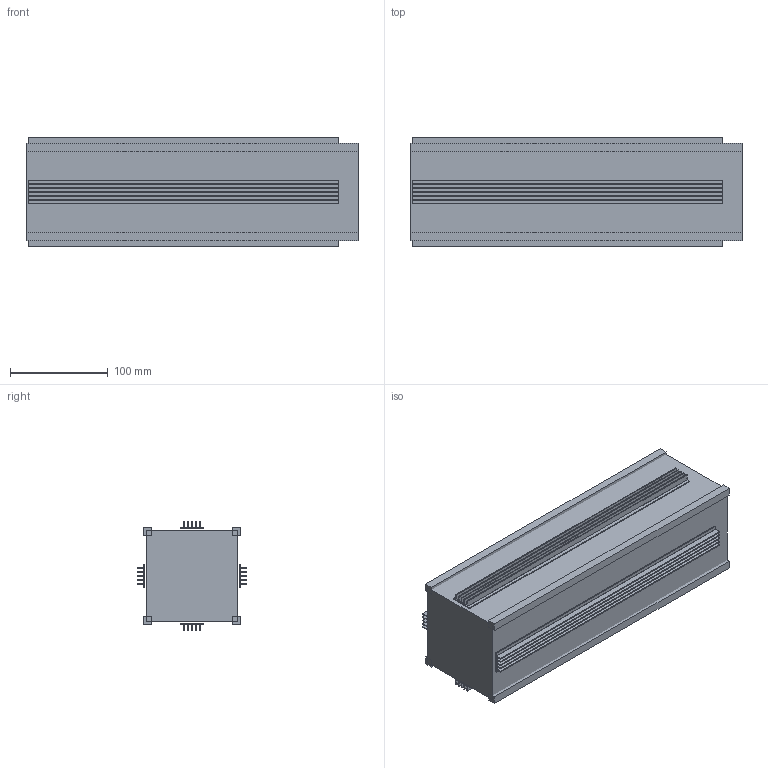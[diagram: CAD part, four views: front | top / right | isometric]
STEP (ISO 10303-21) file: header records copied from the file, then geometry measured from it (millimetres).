
FILE_DESCRIPTION(('Open CASCADE Model'),'2;1');
FILE_NAME('Open CASCADE Shape Model','2026-08-14T13:04:20',('Author'),( 'Open CASCADE'),'Open CASCADE STEP processor 7.7','Open CASCADE 7.7' ,'Unknown');
FILE_SCHEMA(('AUTOMOTIVE_DESIGN { 1 0 10303 214 1 1 1 1 }'));
Length unit declared in the file: millimetre
Products named in the file (90): Open CASCADE STEP translator 7.7 2; Open CASCADE STEP translator 7.7 2.1; Open CASCADE STEP translator 7.7 2.2; Open CASCADE STEP translator 7.7 2.3; Open CASCADE STEP translator 7.7 2.4; Open CASCADE STEP translator 7.7 2.5; Open CASCADE STEP translator 7.7 2.6; Open CASCADE STEP translator 7.7 2.7; Open CASCADE STEP translator 7.7 2.8; Open CASCADE STEP translator 7.7 2.9; Open CASCADE STEP translator 7.7 2.10; Open CASCADE STEP translator 7.7 2.11; Open CASCADE STEP translator 7.7 2.12; Open CASCADE STEP translator 7.7 2.13; Open CASCADE STEP translator 7.7 2.14; Open CASCADE STEP translator 7.7 2.15; Open CASCADE STEP translator 7.7 2.16; Open CASCADE STEP translator 7.7 2.17; Open CASCADE STEP translator 7.7 2.18; Open CASCADE STEP translator 7.7 2.19; Open CASCADE STEP translator 7.7 2.20; Open CASCADE STEP translator 7.7 2.21; Open CASCADE STEP translator 7.7 2.22; Open CASCADE STEP translator 7.7 2.23; Open CASCADE STEP translator 7.7 2.24; Open CASCADE STEP translator 7.7 2.25; Open CASCADE STEP translator 7.7 2.26; Open CASCADE STEP translator 7.7 2.27; Open CASCADE STEP translator 7.7 2.28; Open CASCADE STEP translator 7.7 2.29; Open CASCADE STEP translator 7.7 2.30; Open CASCADE STEP translator 7.7 2.31; Open CASCADE STEP translator 7.7 2.32; Open CASCADE STEP translator 7.7 2.33; Open CASCADE STEP translator 7.7 2.34; Open CASCADE STEP translator 7.7 2.35; Open CASCADE STEP translator 7.7 2.36; Open CASCADE STEP translator 7.7 2.37; Open CASCADE STEP translator 7.7 2.38; Open CASCADE STEP translator 7.7 2.39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
Assembly tree (89 placements, depth 2):
  Open CASCADE STEP translator 7.7 2
    Open CASCADE STEP translator 7.7 2.1
    Open CASCADE STEP translator 7.7 2.2
    Open CASCADE STEP translator 7.7 2.3
    Open CASCADE STEP translator 7.7 2.4
    Open CASCADE STEP translator 7.7 2.5
    Open CASCADE STEP translator 7.7 2.6
    Open CASCADE STEP translator 7.7 2.7
    Open CASCADE STEP translator 7.7 2.8
    Open CASCADE STEP translator 7.7 2.9
    Open CASCADE STEP translator 7.7 2.10
    Open CASCADE STEP translator 7.7 2.11
    Open CASCADE STEP translator 7.7 2.12
    Open CASCADE STEP translator 7.7 2.13
    Open CASCADE STEP translator 7.7 2.14
    Open CASCADE STEP translator 7.7 2.15
    Open CASCADE STEP translator 7.7 2.16
    Open CASCADE STEP translator 7.7 2.17
    Open CASCADE STEP translator 7.7 2.18
    Open CASCADE STEP translator 7.7 2.19
    Open CASCADE STEP translator 7.7 2.20
    Open CASCADE STEP translator 7.7 2.21
    Open CASCADE STEP translator 7.7 2.22
    Open CASCADE STEP translator 7.7 2.23
    Open CASCADE STEP translator 7.7 2.24
    Open CASCADE STEP translator 7.7 2.25
    Open CASCADE STEP translator 7.7 2.26
    Open CASCADE STEP translator 7.7 2.27
    Open CASCADE STEP translator 7.7 2.28
    Open CASCADE STEP translator 7.7 2.29
    Open CASCADE STEP translator 7.7 2.30
    Open CASCADE STEP translator 7.7 2.31
    Open CASCADE STEP translator 7.7 2.32
    Open CASCADE STEP translator 7.7 2.33
    Open CASCADE STEP translator 7.7 2.34
    Open CASCADE STEP translator 7.7 2.35
    Open CASCADE STEP translator 7.7 2.36
    Open CASCADE STEP translator 7.7 2.37
    Open CASCADE STEP translator 7.7 2.38
    Open CASCADE STEP translator 7.7 2.39
    Open CASCADE STEP translator 7.7 2.40
    Open CASCADE STEP translator 7.7 2.41
    Open CASCADE STEP translator 7.7 2.42
    Open CASCADE STEP translator 7.7 2.43
    Open CASCADE STEP translator 7.7 2.44
    Open CASCADE STEP translator 7.7 2.45
    Open CASCADE STEP translator 7.7 2.46
    Open CASCADE STEP translator 7.7 2.47
    Open CASCADE STEP translator 7.7 2.48
    Open CASCADE STEP translator 7.7 2.49
    Open CASCADE STEP translator 7.7 2.50
    Open CASCADE STEP translator 7.7 2.51
    Open CASCADE STEP translator 7.7 2.52
    Open CASCADE STEP translator 7.7 2.53
    Open CASCADE STEP translator 7.7 2.54
    Open CASCADE STEP translator 7.7 2.55
    Open CASCADE STEP translator 7.7 2.56
    Open CASCADE STEP translator 7.7 2.57
    Open CASCADE STEP translator 7.7 2.58
    Open CASCADE STEP translator 7.7 2.59
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Bounding box: 340.5 x 112.5 x 112.5 mm (x, y, z)
Volume: 3184641.6 mm3; surface area: 590430.9 mm2
Topology: 89 solids, 89 shells, 534 faces, 1068 edges, 712 vertices
Faces by surface type: plane 534
Entity records: 28852 total; most frequent: CARTESIAN_POINT 4540, DIRECTION 4452, LINE 3204, VECTOR 3204, ORIENTED_EDGE 2136, PCURVE 2136, DEFINITIONAL_REPRESENTATION 2136, EDGE_CURVE 1068
